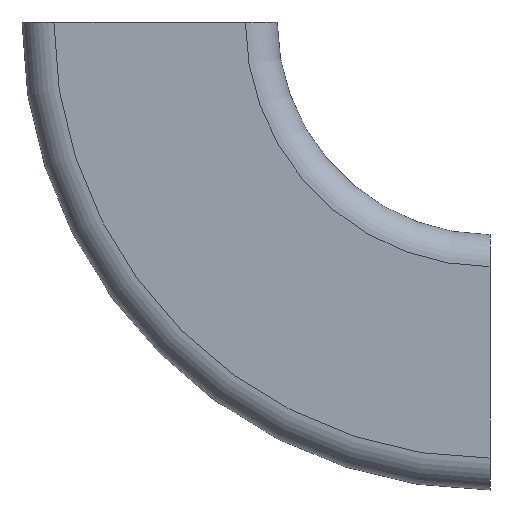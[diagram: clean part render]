
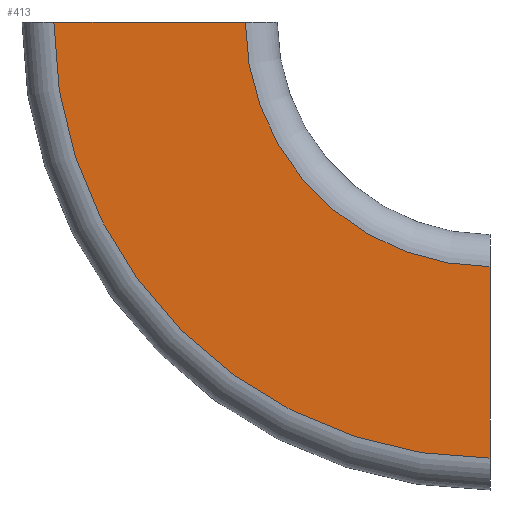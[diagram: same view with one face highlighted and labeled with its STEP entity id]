
A CAD part, left-side view. The second image highlights one B-rep face of the part: STEP entity #413.
In plain terms, the highlighted planar face has unit normal (-1, 0, 0).
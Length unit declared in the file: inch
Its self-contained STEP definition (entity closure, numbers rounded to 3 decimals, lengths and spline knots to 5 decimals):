
#345=CARTESIAN_POINT('',(-0.375,-1.0,-1.28125));
#346=VERTEX_POINT('',#345);
#354=CARTESIAN_POINT('',(-0.375,0.28125,0.0));
#355=VERTEX_POINT('',#354);
#356=CARTESIAN_POINT('',(-0.375,-1.0,0.0));
#357=DIRECTION('',(-1.0,0.0,0.0));
#358=DIRECTION('',(0.0,1.0,0.0));
#359=AXIS2_PLACEMENT_3D('',#356,#357,#358);
#360=CIRCLE('',#359,1.28125);
#361=EDGE_CURVE('',#355,#346,#360,.T.);
#382=CARTESIAN_POINT('',(-0.375,0.,0.0));
#383=DIRECTION('',(-1.0,0.0,0.0));
#384=DIRECTION('',(0.0,0.0,1.0));
#385=AXIS2_PLACEMENT_3D('',#382,#383,#384);
#386=PLANE('',#385);
#387=CARTESIAN_POINT('',(-0.375,-1.0,-0.71875));
#388=VERTEX_POINT('',#387);
#389=CARTESIAN_POINT('',(-0.375,-1.0,-1.28125));
#390=DIRECTION('',(0.0,0.0,1.0));
#391=VECTOR('',#390,0.5625);
#392=LINE('',#389,#391);
#393=EDGE_CURVE('',#346,#388,#392,.T.);
#394=ORIENTED_EDGE('',*,*,#393,.T.);
#395=CARTESIAN_POINT('',(-0.375,-0.28125,0.0));
#396=VERTEX_POINT('',#395);
#397=CARTESIAN_POINT('',(-0.375,-1.0,0.0));
#398=DIRECTION('',(-1.0,0.0,0.0));
#399=DIRECTION('',(0.0,1.0,0.0));
#400=AXIS2_PLACEMENT_3D('',#397,#398,#399);
#401=CIRCLE('',#400,0.71875);
#402=EDGE_CURVE('',#396,#388,#401,.T.);
#403=ORIENTED_EDGE('',*,*,#402,.F.);
#404=CARTESIAN_POINT('',(-0.375,0.28125,0.0));
#405=DIRECTION('',(0.0,-1.0,0.0));
#406=VECTOR('',#405,0.5625);
#407=LINE('',#404,#406);
#408=EDGE_CURVE('',#355,#396,#407,.T.);
#409=ORIENTED_EDGE('',*,*,#408,.F.);
#410=ORIENTED_EDGE('',*,*,#361,.T.);
#411=EDGE_LOOP('',(#394,#403,#409,#410));
#412=FACE_OUTER_BOUND('',#411,.T.);
#413=ADVANCED_FACE('',(#412),#386,.T.);
